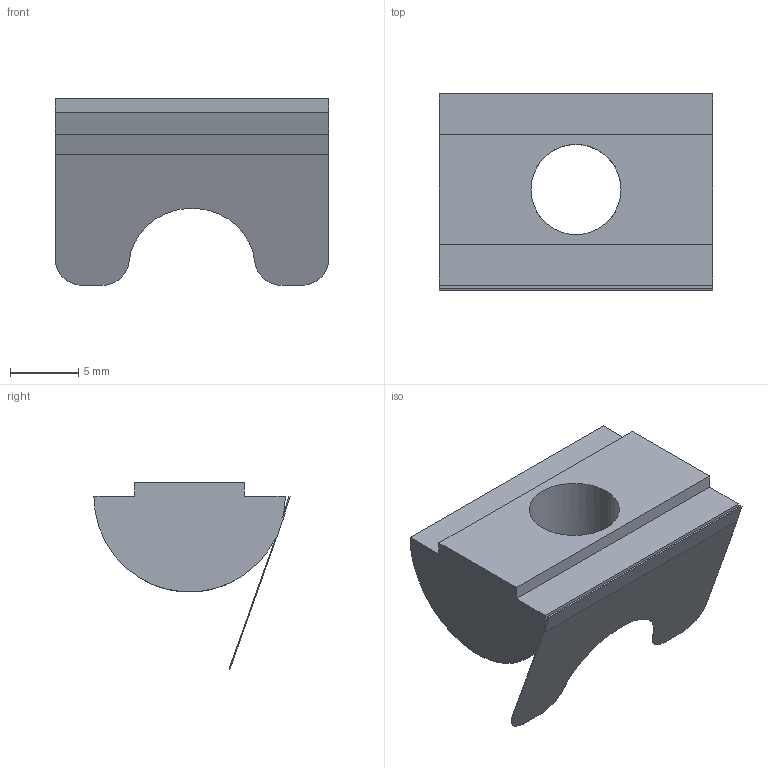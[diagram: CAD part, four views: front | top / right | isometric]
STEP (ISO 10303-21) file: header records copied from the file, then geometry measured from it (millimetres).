
FILE_DESCRIPTION (( 'STEP AP203' ), '1' );
FILE_NAME ('5260.STEP', '2016-04-16T14:24:48', ( '' ), ( '' ), 'SwSTEP 2.0', 'SolidWorks 2014', '' );
FILE_SCHEMA (( 'CONFIG_CONTROL_DESIGN' ));
Length unit declared in the file: millimetre
Products named in the file (1): 5260
Bounding box: 20 x 14.36 x 13.66 mm (x, y, z)
Volume: 1444.3 mm3; surface area: 1395.8 mm2
Topology: 1 solids, 1 shells, 23 faces, 63 edges, 42 vertices
Faces by surface type: plane 14, cylinder 9
Entity records: 876 total; most frequent: CARTESIAN_POINT 195, ORIENTED_EDGE 126, DIRECTION 125, EDGE_CURVE 63, VECTOR 45, LINE 45, VERTEX_POINT 42, AXIS2_PLACEMENT_3D 40
